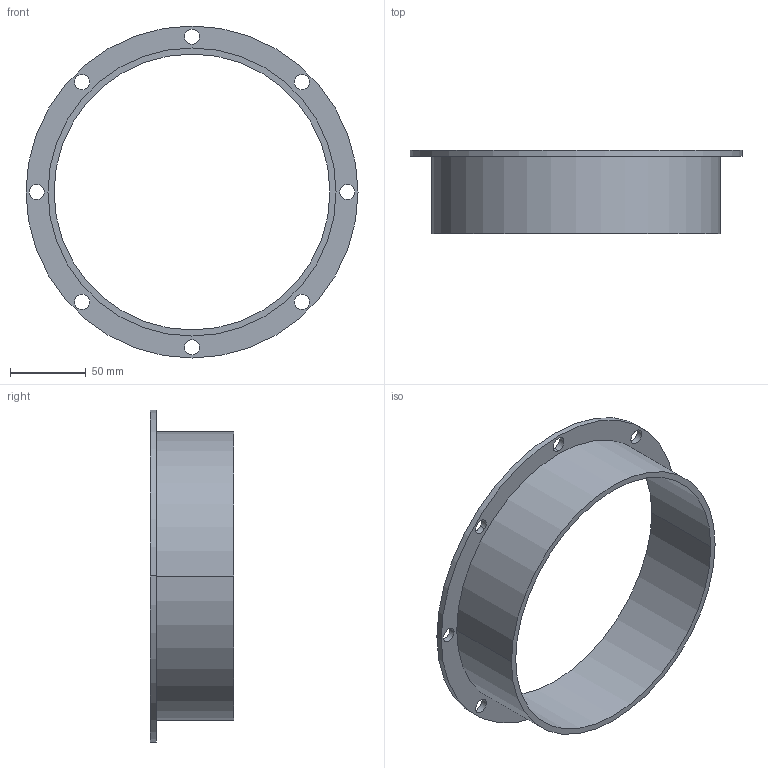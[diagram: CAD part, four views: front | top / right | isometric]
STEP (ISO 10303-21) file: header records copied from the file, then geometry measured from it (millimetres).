
FILE_DESCRIPTION(('STEP AP214'),'1');
FILE_NAME('accessory_5136840500.stp','2017-10-09T07:15:53',('TraceParts'),('TraceParts S.A.'),'Spatial InterOp 3D',' ',' ');
FILE_SCHEMA(('automotive_design'));
Length unit declared in the file: millimetre
Products named in the file (1): accessory_5136840500
Bounding box: 219 x 55 x 219 mm (x, y, z)
Volume: 163303.1 mm3; surface area: 87696 mm2
Topology: 1 solids, 1 shells, 25 faces, 66 edges, 44 vertices
Faces by surface type: cylinder 22, plane 3
Entity records: 1056 total; most frequent: DIRECTION 162, CARTESIAN_POINT 136, ORIENTED_EDGE 132, AXIS2_PLACEMENT_3D 70, EDGE_CURVE 66, EDGE_LOOP 44, VERTEX_POINT 44, CIRCLE 44
